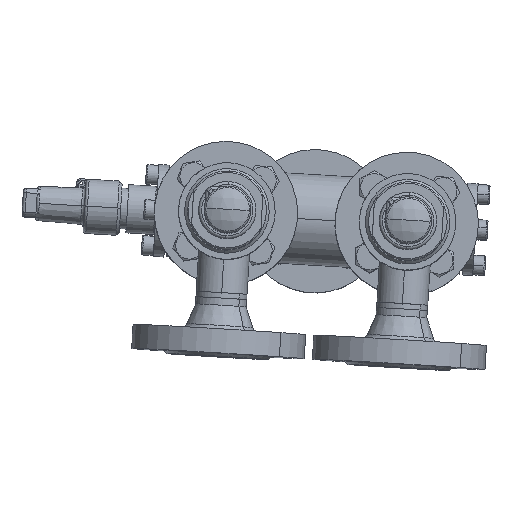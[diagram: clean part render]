
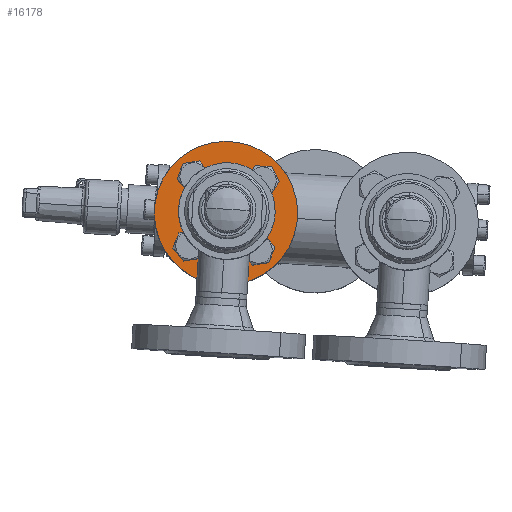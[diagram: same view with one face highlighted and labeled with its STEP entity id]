
A CAD part, left-side view. The second image highlights one B-rep face of the part: STEP entity #16178.
In plain terms, the highlighted planar face has unit normal (-1, -0.004, 0.009) as drawn and (0, 1, 0) by its records, which use the part's own axes.
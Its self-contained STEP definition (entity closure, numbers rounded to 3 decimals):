
#16990 = EDGE_CURVE ( 'NONE', #3278, #9123, #20440, .T. ) ;
#17906 = VERTEX_POINT ( 'NONE', #21285 ) ;
#18359 = CARTESIAN_POINT ( 'NONE',  ( -47.5, 16., 0. ) ) ;
#19158 = EDGE_CURVE ( 'NONE', #21012, #5460, #22929, .T. ) ;
#19405 = FACE_BOUND ( 'NONE', #15683, .T. ) ;
#19406 = FACE_BOUND ( 'NONE', #11470, .T. ) ;
#19407 = FACE_BOUND ( 'NONE', #10626, .T. ) ;
#19433 = FACE_BOUND ( 'NONE', #7209, .T. ) ;
#19434 = FACE_BOUND ( 'NONE', #13049, .T. ) ;
#19435 = FACE_OUTER_BOUND ( 'NONE', #10391, .T. ) ;
#19436 = PLANE ( 'NONE',  #19437 ) ;
#19437 = AXIS2_PLACEMENT_3D ( 'NONE', #19438, #19439, #19440 ) ;
#19438 = CARTESIAN_POINT ( 'NONE',  ( 47.5, 16., 0. ) ) ;
#19439 = DIRECTION ( 'NONE',  ( 0., -1., 0. ) ) ;
#19440 = DIRECTION ( 'NONE',  ( 1., 0., 0. ) ) ;
#3278 = VERTEX_POINT ( 'NONE', #41849 ) ;
#3411 = CIRCLE ( 'NONE', #3412, 7. ) ;
#3412 = AXIS2_PLACEMENT_3D ( 'NONE', #3413, #3414, #3415 ) ;
#3413 = CARTESIAN_POINT ( 'NONE',  ( 32.5, 16., 0. ) ) ;
#3414 = DIRECTION ( 'NONE',  ( 0., 1., 0. ) ) ;
#3415 = DIRECTION ( 'NONE',  ( -1., 0., 0. ) ) ;
#36461 = EDGE_CURVE ( 'NONE', #31830, #39072, #31856, .T. ) ;
#3717 = CARTESIAN_POINT ( 'NONE',  ( -7., 16., -32.5 ) ) ;
#20440 = CIRCLE ( 'NONE', #20441, 18.88 ) ;
#20441 = AXIS2_PLACEMENT_3D ( 'NONE', #20442, #20443, #20444 ) ;
#20442 = CARTESIAN_POINT ( 'NONE',  ( 0., 16., 0. ) ) ;
#20443 = DIRECTION ( 'NONE',  ( 0., 1., 0. ) ) ;
#20444 = DIRECTION ( 'NONE',  ( -1., 0., 0. ) ) ;
#36884 = CARTESIAN_POINT ( 'NONE',  ( 47.5, 16., 0. ) ) ;
#21012 = VERTEX_POINT ( 'NONE', #25698 ) ;
#21285 = CARTESIAN_POINT ( 'NONE',  ( -25.5, 16., 0. ) ) ;
#5034 = EDGE_CURVE ( 'NONE', #9892, #12013, #3411, .T. ) ;
#5460 = VERTEX_POINT ( 'NONE', #3717 ) ;
#5655 = CIRCLE ( 'NONE', #5656, 18.88 ) ;
#5656 = AXIS2_PLACEMENT_3D ( 'NONE', #5657, #5658, #5659 ) ;
#5657 = CARTESIAN_POINT ( 'NONE',  ( 0., 16., 0. ) ) ;
#5658 = DIRECTION ( 'NONE',  ( 0., 1., 0. ) ) ;
#5659 = DIRECTION ( 'NONE',  ( -1., 0., 0. ) ) ;
#38559 = CARTESIAN_POINT ( 'NONE',  ( 7., 16., 32.5 ) ) ;
#5809 = ORIENTED_EDGE ( 'NONE', *, *, #5034, .F. ) ;
#5847 = CIRCLE ( 'NONE', #5848, 47.5 ) ;
#5848 = AXIS2_PLACEMENT_3D ( 'NONE', #5849, #5850, #5851 ) ;
#5849 = CARTESIAN_POINT ( 'NONE',  ( 0., 16., 0. ) ) ;
#5850 = DIRECTION ( 'NONE',  ( 0., 1., 0. ) ) ;
#5851 = DIRECTION ( 'NONE',  ( -1., 0., 0. ) ) ;
#39072 = VERTEX_POINT ( 'NONE', #36884 ) ;
#22929 = CIRCLE ( 'NONE', #22930, 7. ) ;
#22930 = AXIS2_PLACEMENT_3D ( 'NONE', #22931, #22932, #22933 ) ;
#22931 = CARTESIAN_POINT ( 'NONE',  ( 0., 16., -32.5 ) ) ;
#22932 = DIRECTION ( 'NONE',  ( 0., 1., 0. ) ) ;
#22933 = DIRECTION ( 'NONE',  ( 0., 0., 1. ) ) ;
#7209 = EDGE_LOOP ( 'NONE', ( #5809, #13558 ) ) ;
#7224 = CIRCLE ( 'NONE', #7225, 7. ) ;
#7225 = AXIS2_PLACEMENT_3D ( 'NONE', #7251, #7252, #7253 ) ;
#7251 = CARTESIAN_POINT ( 'NONE',  ( 0., 16., 32.5 ) ) ;
#7252 = DIRECTION ( 'NONE',  ( 0., 1., 0. ) ) ;
#7253 = DIRECTION ( 'NONE',  ( 0., 0., -1. ) ) ;
#7286 = EDGE_CURVE ( 'NONE', #9123, #3278, #5655, .T. ) ;
#7483 = EDGE_CURVE ( 'NONE', #39072, #31830, #5847, .T. ) ;
#7710 = ORIENTED_EDGE ( 'NONE', *, *, #9205, .F. ) ;
#7863 = CARTESIAN_POINT ( 'NONE',  ( 18.88, 16., 0. ) ) ;
#8028 = CIRCLE ( 'NONE', #8029, 7. ) ;
#8029 = AXIS2_PLACEMENT_3D ( 'NONE', #8030, #8031, #8032 ) ;
#8030 = CARTESIAN_POINT ( 'NONE',  ( 0., 16., 32.5 ) ) ;
#8031 = DIRECTION ( 'NONE',  ( 0., 1., 0. ) ) ;
#8032 = DIRECTION ( 'NONE',  ( 0., 0., -1. ) ) ;
#8242 = ORIENTED_EDGE ( 'NONE', *, *, #7483, .T. ) ;
#8779 = EDGE_CURVE ( 'NONE', #12855, #25320, #7224, .T. ) ;
#25320 = VERTEX_POINT ( 'NONE', #38559 ) ;
#41849 = CARTESIAN_POINT ( 'NONE',  ( -18.88, 16., 0. ) ) ;
#9123 = VERTEX_POINT ( 'NONE', #7863 ) ;
#9205 = EDGE_CURVE ( 'NONE', #25320, #12855, #8028, .T. ) ;
#9318 = ORIENTED_EDGE ( 'NONE', *, *, #36461, .T. ) ;
#25698 = CARTESIAN_POINT ( 'NONE',  ( 7., 16., -32.5 ) ) ;
#9545 = ORIENTED_EDGE ( 'NONE', *, *, #8779, .F. ) ;
#9892 = VERTEX_POINT ( 'NONE', #10134 ) ;
#10134 = CARTESIAN_POINT ( 'NONE',  ( 25.5, 16., 0. ) ) ;
#10165 = EDGE_CURVE ( 'NONE', #12013, #9892, #10637, .T. ) ;
#10391 = EDGE_LOOP ( 'NONE', ( #9318, #8242 ) ) ;
#10392 = ORIENTED_EDGE ( 'NONE', *, *, #12203, .F. ) ;
#10626 = EDGE_LOOP ( 'NONE', ( #9545, #7710 ) ) ;
#10637 = CIRCLE ( 'NONE', #10638, 7. ) ;
#10638 = AXIS2_PLACEMENT_3D ( 'NONE', #10639, #10640, #10641 ) ;
#10639 = CARTESIAN_POINT ( 'NONE',  ( 32.5, 16., 0. ) ) ;
#10640 = DIRECTION ( 'NONE',  ( 0., 1., 0. ) ) ;
#10641 = DIRECTION ( 'NONE',  ( -1., 0., 0. ) ) ;
#10897 = ORIENTED_EDGE ( 'NONE', *, *, #7286, .F. ) ;
#11125 = ORIENTED_EDGE ( 'NONE', *, *, #13088, .F. ) ;
#11470 = EDGE_LOOP ( 'NONE', ( #10392, #11125 ) ) ;
#11971 = ORIENTED_EDGE ( 'NONE', *, *, #16990, .F. ) ;
#11972 = ORIENTED_EDGE ( 'NONE', *, *, #19158, .F. ) ;
#12013 = VERTEX_POINT ( 'NONE', #15050 ) ;
#12203 = EDGE_CURVE ( 'NONE', #12623, #17906, #15278, .T. ) ;
#12623 = VERTEX_POINT ( 'NONE', #15702 ) ;
#12855 = VERTEX_POINT ( 'NONE', #16107 ) ;
#13049 = EDGE_LOOP ( 'NONE', ( #11971, #10897 ) ) ;
#13050 = EDGE_CURVE ( 'NONE', #5460, #21012, #16232, .T. ) ;
#13088 = EDGE_CURVE ( 'NONE', #17906, #12623, #16260, .T. ) ;
#13558 = ORIENTED_EDGE ( 'NONE', *, *, #10165, .F. ) ;
#13827 = ORIENTED_EDGE ( 'NONE', *, *, #13050, .F. ) ;
#15050 = CARTESIAN_POINT ( 'NONE',  ( 39.5, 16., 0. ) ) ;
#15278 = CIRCLE ( 'NONE', #15279, 7. ) ;
#15279 = AXIS2_PLACEMENT_3D ( 'NONE', #15280, #15281, #15282 ) ;
#15280 = CARTESIAN_POINT ( 'NONE',  ( -32.5, 16., 0. ) ) ;
#15281 = DIRECTION ( 'NONE',  ( 0., 1., 0. ) ) ;
#15282 = DIRECTION ( 'NONE',  ( 1., 0., 0. ) ) ;
#31830 = VERTEX_POINT ( 'NONE', #18359 ) ;
#31856 = CIRCLE ( 'NONE', #31857, 47.5 ) ;
#31857 = AXIS2_PLACEMENT_3D ( 'NONE', #31858, #31859, #31860 ) ;
#31858 = CARTESIAN_POINT ( 'NONE',  ( 0., 16., 0. ) ) ;
#31859 = DIRECTION ( 'NONE',  ( 0., 1., 0. ) ) ;
#31860 = DIRECTION ( 'NONE',  ( -1., 0., 0. ) ) ;
#15683 = EDGE_LOOP ( 'NONE', ( #13827, #11972 ) ) ;
#15702 = CARTESIAN_POINT ( 'NONE',  ( -39.5, 16., 0. ) ) ;
#16107 = CARTESIAN_POINT ( 'NONE',  ( -7., 16., 32.5 ) ) ;
#16178 = ADVANCED_FACE ( 'NONE', ( #19405, #19406, #19407, #19433, #19434, #19435 ), #19436, .F. ) ;
#16232 = CIRCLE ( 'NONE', #16233, 7. ) ;
#16233 = AXIS2_PLACEMENT_3D ( 'NONE', #16256, #16257, #16258 ) ;
#16256 = CARTESIAN_POINT ( 'NONE',  ( 0., 16., -32.5 ) ) ;
#16257 = DIRECTION ( 'NONE',  ( 0., 1., 0. ) ) ;
#16258 = DIRECTION ( 'NONE',  ( 0., 0., 1. ) ) ;
#16260 = CIRCLE ( 'NONE', #16261, 7. ) ;
#16261 = AXIS2_PLACEMENT_3D ( 'NONE', #16262, #16263, #16264 ) ;
#16262 = CARTESIAN_POINT ( 'NONE',  ( -32.5, 16., 0. ) ) ;
#16263 = DIRECTION ( 'NONE',  ( 0., 1., 0. ) ) ;
#16264 = DIRECTION ( 'NONE',  ( 1., 0., 0. ) ) ;
